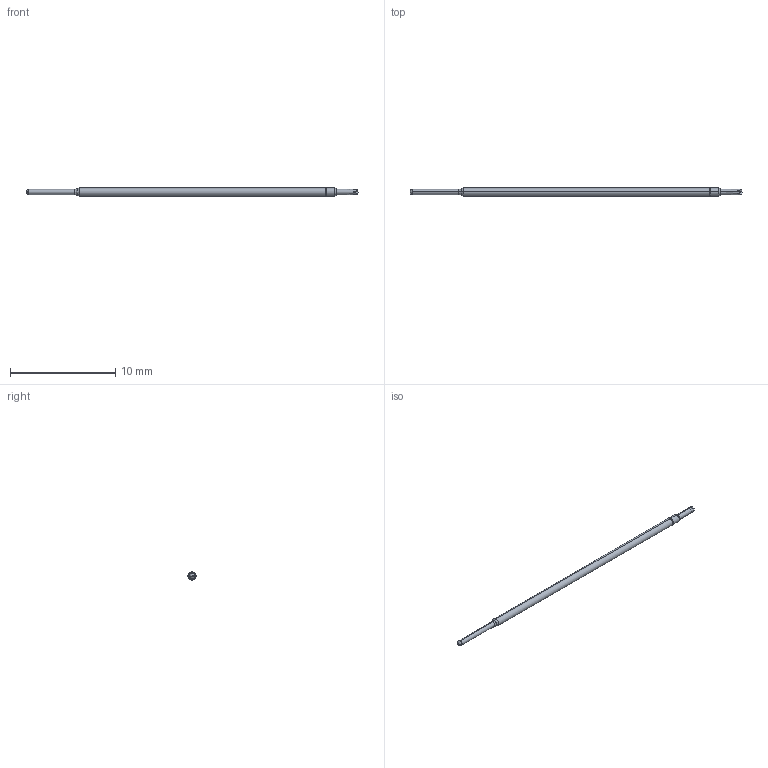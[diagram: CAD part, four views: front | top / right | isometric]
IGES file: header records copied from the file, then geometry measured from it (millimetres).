
Start section: SolidWorks IGES file using analytic representation for surfaces
Global section: file name: C:\Documents and Settings\mrumschlag\Desktop\changes\new\test\FP FULL.IGS; native system: SolidWorks 2011; preprocessor: SolidWorks 2011; author: mrumschlag; date: 110630.142734; units: inch
Bounding box: 31.58 x 0.76 x 0.76 mm (x, y, z)
Surface area: 70.7 mm2 (no closed solid volume)
Topology: 0 solids, 0 shells, 35 faces, 194 edges, 192 vertices
Faces by surface type: bspline 21, revolution 14
